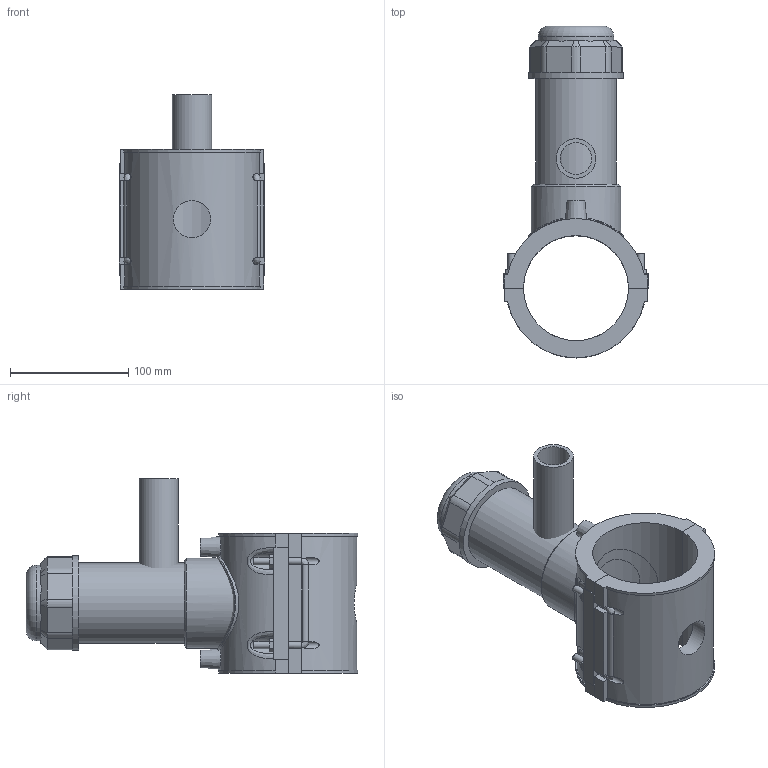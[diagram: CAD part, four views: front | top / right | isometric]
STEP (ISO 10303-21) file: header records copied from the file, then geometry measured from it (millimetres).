
FILE_DESCRIPTION(/* description */ ('PLASSON TAPPING SADDLE 3''''IPS x 1''''IPS'),/* implementation_level */ '2;1');
FILE_NAME(/* name */ 'C:\Dropbox\KIMPROJECTS-Inventor 2019\99-16-3568-Processing Inch\ASTM ElectroFusion 2021\5963BBP_5963BUP\5963BBP3030010.ipt.stp',/* time_stamp */ '2021-08-30T09:56:53+03:00',/* author */ ('KIM'),/* organization */ (''),/* preprocessor_version */ 'ST-DEVELOPER v17.2',/* originating_system */ 'Autodesk Inventor 2019',/* authorisation */ '');
FILE_SCHEMA (('AUTOMOTIVE_DESIGN { 1 0 10303 214 3 1 1 }'));
Length unit declared in the file: inch
Products named in the file (1): 5963BBP3030010
Bounding box: 122.9 x 280.2 x 163.96 mm (x, y, z)
Volume: 948721.8 mm3; surface area: 198950.6 mm2
Topology: 3 solids, 3 shells, 204 faces, 543 edges, 356 vertices
Faces by surface type: plane 125, cylinder 53, cone 15, bspline 10, torus 1
Full cylindrical faces by diameter (mm): 4 x2, 6 x8, 10 x2, 26.64 x1, 31.36 x1, 33.3 x1, 55.881 x1, 63.864 x1, 67.856 x1, 75.839 x1, 79.83 x1
Entity records: 7875 total; most frequent: CARTESIAN_POINT 2739, ORIENTED_EDGE 1086, DIRECTION 1022, EDGE_CURVE 543, VERTEX_POINT 356, AXIS2_PLACEMENT_3D 351, LINE 320, VECTOR 320
